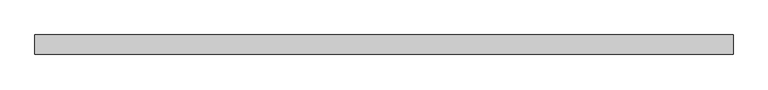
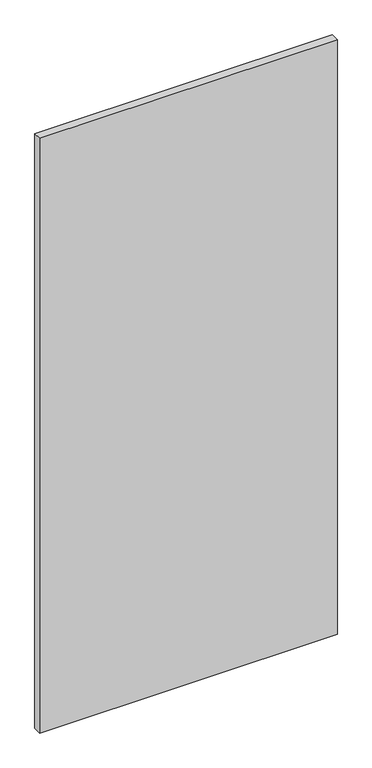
"""IFC4 building model written with IfcOpenShell, lengths in millimetres: plate geometry, Vitré."""

from ifc_helpers import new_model, si_unit, origin, origin_with_axes, place, context, project, spatial, polyline, outline, extrude, source, transform, mapped, element, save


def plate_5858a815(model_context):
    return source(origin(), model_context, "Body", "SweptSolid", [
        extrude(outline(polyline([(-717.5, -20.0), (-717.5, 20.0), (717.5, 20.0), (717.5, -20.0), (-717.5, -20.0)])), origin_with_axes(), (0.0, 0.0, 1.0), 3030.0),
    ])


if __name__ == "__main__":
    model = new_model("IFC4")
    model_context = context("Model", 3, world=origin())
    ifc_project = project(units=[si_unit("LENGTHUNIT", "METRE", prefix="MILLI")], contexts=[model_context])
    site = spatial("IfcSite", under=ifc_project)
    building = spatial("IfcBuilding", under=site)
    placement = place(None, origin())
    plate_shape = plate_5858a815(model_context)
    element("IfcPlate", 1, ObjectType="Vitré", at=placement, inside=building, context=model_context, shape_type="MappedRepresentation", body=[
        mapped(plate_shape, transform((0.0, 0.0, 0.0), x_axis=(1.0, 0.0, 0.0), y_axis=(0.0, 1.0, 0.0), z_axis=(0.0, 0.0, 1.0))),
    ])
    save(model, "model.ifc")
